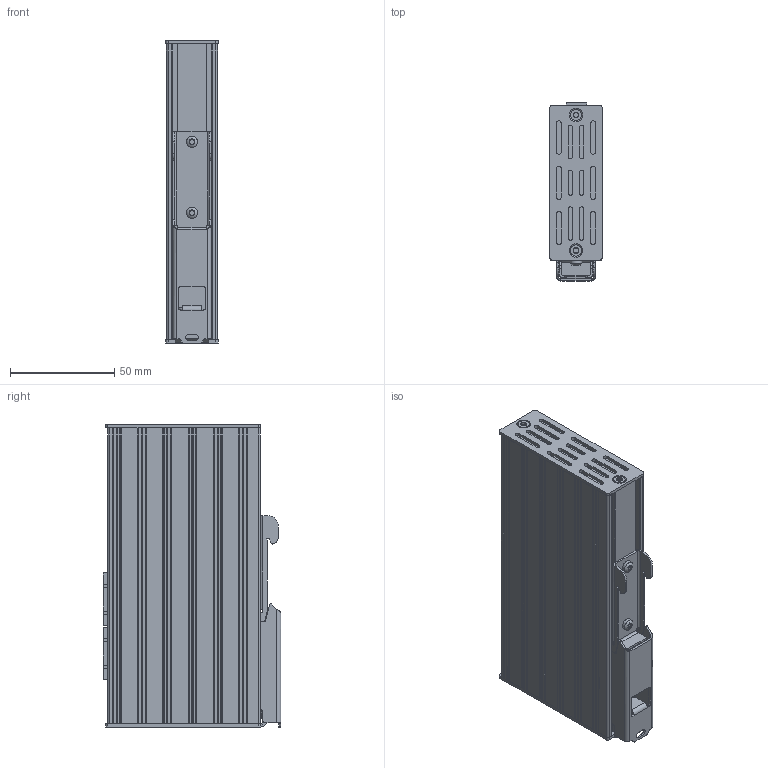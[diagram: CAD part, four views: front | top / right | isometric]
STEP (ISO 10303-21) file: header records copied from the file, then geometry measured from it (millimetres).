
FILE_DESCRIPTION(('TFLEX Exchange Step'),'2;1');
FILE_NAME('TZCA211302X0A_NITE-RS42-110X0.stp', '2019-08-01T15:33:23+02:00',('User'),('Unknown organisation'),'TFLEX Exchange 2019.0','T-FLEX CAD','Unknown authorisation');
FILE_SCHEMA( ('AUTOMOTIVE_DESIGN { 1 0 10303 214 1 1 1 1 }') );
Length unit declared in the file: millimetre
Products named in the file (1): Körper_1 - 3D-Fragment_1:1
Bounding box: 25 x 85.3 x 145.05 mm (x, y, z)
Volume: 245046.9 mm3; surface area: 52744 mm2
Topology: 1 solids, 22 shells, 2099 faces, 5748 edges, 3789 vertices
Faces by surface type: plane 1212, cylinder 546, bspline 298, torus 22, cone 14, extrusion 5, sphere 2
Full cylindrical faces by diameter (mm): 0.5 x32, 1.2 x11, 2.85 x8, 3 x2, 3.15 x2, 3.5 x2, 5.5 x10, 6 x4
Entity records: 78110 total; most frequent: CARTESIAN_POINT 27519, ORIENTED_EDGE 11432, DIRECTION 8412, EDGE_CURVE 5716, VERTEX_POINT 3789, AXIS2_PLACEMENT_3D 2856, VECTOR 2700, LINE 2695
